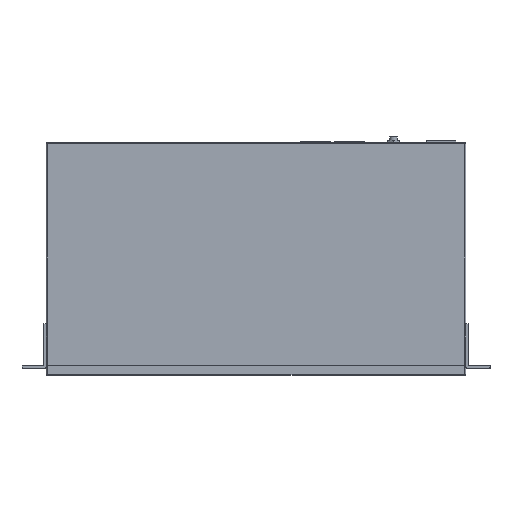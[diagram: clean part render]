
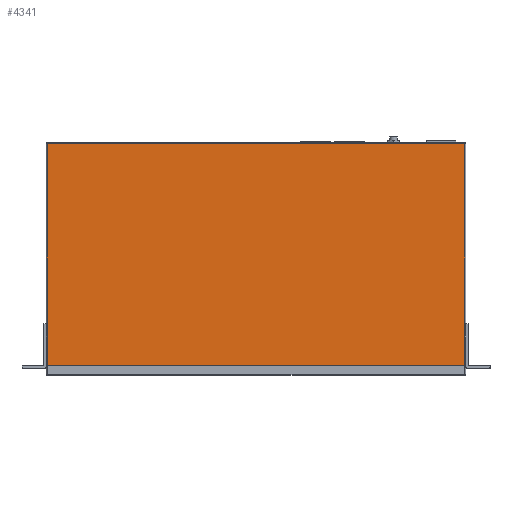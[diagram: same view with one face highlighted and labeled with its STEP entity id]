
A CAD part, top view. The second image highlights one B-rep face of the part: STEP entity #4341.
In plain terms, the highlighted planar face has unit normal (0, 0, 1).
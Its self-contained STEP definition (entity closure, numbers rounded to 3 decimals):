
#126 = CYLINDRICAL_SURFACE('',#127,1.);
#127 = AXIS2_PLACEMENT_3D('',#128,#129,#130);
#128 = CARTESIAN_POINT('',(-216.5,114.,43.));
#129 = DIRECTION('',(1.,0.,0.));
#130 = DIRECTION('',(0.,1.,0.));
#1629 = VERTEX_POINT('',#1630);
#1630 = CARTESIAN_POINT('',(-215.5,114.,44.));
#1657 = EDGE_CURVE('',#1629,#1658,#1660,.T.);
#1658 = VERTEX_POINT('',#1659);
#1659 = CARTESIAN_POINT('',(215.5,114.,44.));
#1660 = SURFACE_CURVE('',#1661,(#1665,#1672),.PCURVE_S1.);
#1661 = LINE('',#1662,#1663);
#1662 = CARTESIAN_POINT('',(-216.5,114.,44.));
#1663 = VECTOR('',#1664,1.);
#1664 = DIRECTION('',(1.,0.,0.));
#1665 = PCURVE('',#126,#1666);
#1666 = DEFINITIONAL_REPRESENTATION('',(#1667),#1671);
#1667 = LINE('',#1668,#1669);
#1668 = CARTESIAN_POINT('',(1.571,0.));
#1669 = VECTOR('',#1670,1.);
#1670 = DIRECTION('',(0.,1.));
#1671 = ( GEOMETRIC_REPRESENTATION_CONTEXT(2) 
PARAMETRIC_REPRESENTATION_CONTEXT() REPRESENTATION_CONTEXT('2D SPACE',''
  ) );
#1672 = PCURVE('',#1673,#1678);
#1673 = PLANE('',#1674);
#1674 = AXIS2_PLACEMENT_3D('',#1675,#1676,#1677);
#1675 = CARTESIAN_POINT('',(0.,0.,44.));
#1676 = DIRECTION('',(-0.,-0.,-1.));
#1677 = DIRECTION('',(-1.,0.,0.));
#1678 = DEFINITIONAL_REPRESENTATION('',(#1679),#1683);
#1679 = LINE('',#1680,#1681);
#1680 = CARTESIAN_POINT('',(216.5,114.));
#1681 = VECTOR('',#1682,1.);
#1682 = DIRECTION('',(-1.,0.));
#1683 = ( GEOMETRIC_REPRESENTATION_CONTEXT(2) 
PARAMETRIC_REPRESENTATION_CONTEXT() REPRESENTATION_CONTEXT('2D SPACE',''
  ) );
#4120 = PLANE('',#4121);
#4121 = AXIS2_PLACEMENT_3D('',#4122,#4123,#4124);
#4122 = CARTESIAN_POINT('',(216.5,-115.,0.));
#4123 = DIRECTION('',(0.,-1.,0.));
#4124 = DIRECTION('',(-1.,0.,0.));
#4168 = CYLINDRICAL_SURFACE('',#4169,1.);
#4169 = AXIS2_PLACEMENT_3D('',#4170,#4171,#4172);
#4170 = CARTESIAN_POINT('',(215.5,115.,43.));
#4171 = DIRECTION('',(0.,-1.,0.));
#4172 = DIRECTION('',(1.,0.,0.));
#4330 = CYLINDRICAL_SURFACE('',#4331,1.);
#4331 = AXIS2_PLACEMENT_3D('',#4332,#4333,#4334);
#4332 = CARTESIAN_POINT('',(-215.5,-115.,43.));
#4333 = DIRECTION('',(0.,1.,0.));
#4334 = DIRECTION('',(-1.,0.,0.));
#4341 = ADVANCED_FACE('',(#4342),#1673,.F.);
#4342 = FACE_BOUND('',#4343,.F.);
#4343 = EDGE_LOOP('',(#4344,#4369,#4390,#4391));
#4344 = ORIENTED_EDGE('',*,*,#4345,.T.);
#4345 = EDGE_CURVE('',#4346,#4348,#4350,.T.);
#4346 = VERTEX_POINT('',#4347);
#4347 = CARTESIAN_POINT('',(215.5,-115.,44.));
#4348 = VERTEX_POINT('',#4349);
#4349 = CARTESIAN_POINT('',(-215.5,-115.,44.));
#4350 = SURFACE_CURVE('',#4351,(#4355,#4362),.PCURVE_S1.);
#4351 = LINE('',#4352,#4353);
#4352 = CARTESIAN_POINT('',(216.5,-115.,44.));
#4353 = VECTOR('',#4354,1.);
#4354 = DIRECTION('',(-1.,0.,0.));
#4355 = PCURVE('',#1673,#4356);
#4356 = DEFINITIONAL_REPRESENTATION('',(#4357),#4361);
#4357 = LINE('',#4358,#4359);
#4358 = CARTESIAN_POINT('',(-216.5,-115.));
#4359 = VECTOR('',#4360,1.);
#4360 = DIRECTION('',(1.,0.));
#4361 = ( GEOMETRIC_REPRESENTATION_CONTEXT(2) 
PARAMETRIC_REPRESENTATION_CONTEXT() REPRESENTATION_CONTEXT('2D SPACE',''
  ) );
#4362 = PCURVE('',#4120,#4363);
#4363 = DEFINITIONAL_REPRESENTATION('',(#4364),#4368);
#4364 = LINE('',#4365,#4366);
#4365 = CARTESIAN_POINT('',(0.,-44.));
#4366 = VECTOR('',#4367,1.);
#4367 = DIRECTION('',(1.,0.));
#4368 = ( GEOMETRIC_REPRESENTATION_CONTEXT(2) 
PARAMETRIC_REPRESENTATION_CONTEXT() REPRESENTATION_CONTEXT('2D SPACE',''
  ) );
#4369 = ORIENTED_EDGE('',*,*,#4370,.T.);
#4370 = EDGE_CURVE('',#4348,#1629,#4371,.T.);
#4371 = SURFACE_CURVE('',#4372,(#4376,#4383),.PCURVE_S1.);
#4372 = LINE('',#4373,#4374);
#4373 = CARTESIAN_POINT('',(-215.5,-115.,44.));
#4374 = VECTOR('',#4375,1.);
#4375 = DIRECTION('',(0.,1.,0.));
#4376 = PCURVE('',#1673,#4377);
#4377 = DEFINITIONAL_REPRESENTATION('',(#4378),#4382);
#4378 = LINE('',#4379,#4380);
#4379 = CARTESIAN_POINT('',(215.5,-115.));
#4380 = VECTOR('',#4381,1.);
#4381 = DIRECTION('',(0.,1.));
#4382 = ( GEOMETRIC_REPRESENTATION_CONTEXT(2) 
PARAMETRIC_REPRESENTATION_CONTEXT() REPRESENTATION_CONTEXT('2D SPACE',''
  ) );
#4383 = PCURVE('',#4330,#4384);
#4384 = DEFINITIONAL_REPRESENTATION('',(#4385),#4389);
#4385 = LINE('',#4386,#4387);
#4386 = CARTESIAN_POINT('',(1.571,0.));
#4387 = VECTOR('',#4388,1.);
#4388 = DIRECTION('',(0.,1.));
#4389 = ( GEOMETRIC_REPRESENTATION_CONTEXT(2) 
PARAMETRIC_REPRESENTATION_CONTEXT() REPRESENTATION_CONTEXT('2D SPACE',''
  ) );
#4390 = ORIENTED_EDGE('',*,*,#1657,.T.);
#4391 = ORIENTED_EDGE('',*,*,#4392,.T.);
#4392 = EDGE_CURVE('',#1658,#4346,#4393,.T.);
#4393 = SURFACE_CURVE('',#4394,(#4398,#4405),.PCURVE_S1.);
#4394 = LINE('',#4395,#4396);
#4395 = CARTESIAN_POINT('',(215.5,115.,44.));
#4396 = VECTOR('',#4397,1.);
#4397 = DIRECTION('',(0.,-1.,0.));
#4398 = PCURVE('',#1673,#4399);
#4399 = DEFINITIONAL_REPRESENTATION('',(#4400),#4404);
#4400 = LINE('',#4401,#4402);
#4401 = CARTESIAN_POINT('',(-215.5,115.));
#4402 = VECTOR('',#4403,1.);
#4403 = DIRECTION('',(0.,-1.));
#4404 = ( GEOMETRIC_REPRESENTATION_CONTEXT(2) 
PARAMETRIC_REPRESENTATION_CONTEXT() REPRESENTATION_CONTEXT('2D SPACE',''
  ) );
#4405 = PCURVE('',#4168,#4406);
#4406 = DEFINITIONAL_REPRESENTATION('',(#4407),#4411);
#4407 = LINE('',#4408,#4409);
#4408 = CARTESIAN_POINT('',(1.571,0.));
#4409 = VECTOR('',#4410,1.);
#4410 = DIRECTION('',(0.,1.));
#4411 = ( GEOMETRIC_REPRESENTATION_CONTEXT(2) 
PARAMETRIC_REPRESENTATION_CONTEXT() REPRESENTATION_CONTEXT('2D SPACE',''
  ) );
